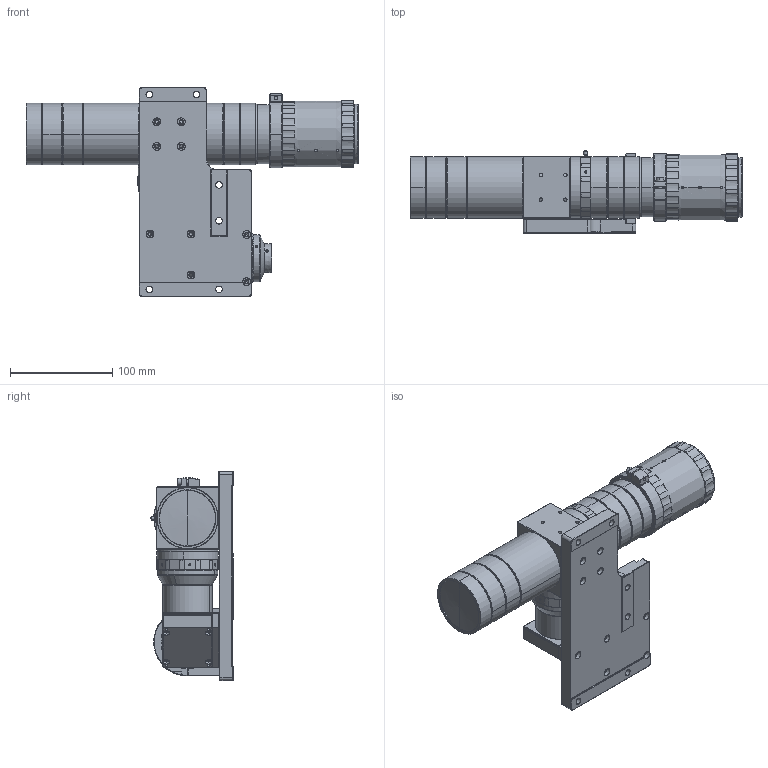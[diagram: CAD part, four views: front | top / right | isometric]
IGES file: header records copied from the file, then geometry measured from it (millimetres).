
Start section: SolidWorks IGES file using analytic representation for surfaces
Bounding box: 323.95 x 80.26 x 204 mm (x, y, z)
Surface area: 191535.5 mm2 (no closed solid volume)
Topology: 0 solids, 0 shells, 1349 faces, 21551 edges, 21533 vertices
Faces by surface type: revolution 944, bspline 405
